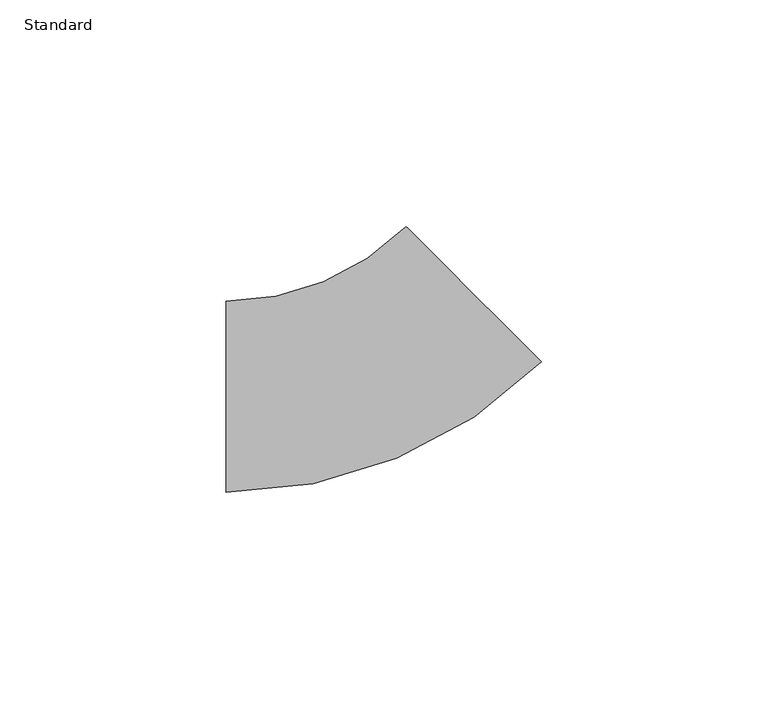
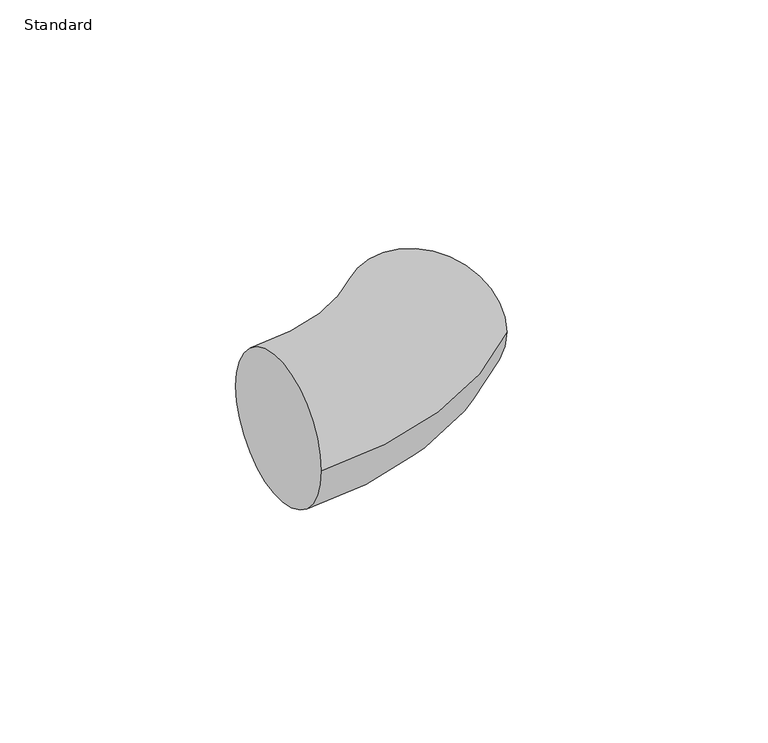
"""IFC4 building model written with IfcOpenShell, lengths in millimetres: pipe fitting geometry, Coude - Générique1 : Standard."""

from ifc_helpers import new_model, si_unit, point, frame, origin, place, context, project, spatial, circle_curve, ellipse_curve, trimmed, source, transform, mapped, element, save
from ifc_brep_helpers import plane_surface, revolved_surface, advanced_brep


def standard_fb91f736(model_context):
    return source(origin(), model_context, "Body", "AdvancedBrep", [
        advanced_brep(
        [(-32.0, -21.1, 0.0), (-32.0, 21.1, 0.0), (37.5470801, 7.7088766, 0.0), (7.7060513, 37.54766, 0.0)],
        [
            (0, 1, circle_curve(frame((-32.0, 0.0, 0.0), z_axis=(-1.0, 0.0, 0.0), x_axis=(0.0, 1.0, 0.0)), 21.1)),
            (1, 0, circle_curve(frame((-32.0, 0.0, 0.0), z_axis=(-1.0, 0.0, 0.0), x_axis=(0.0, 1.0, 0.0)), 21.1)),
            (2, 3, circle_curve(frame((22.6265657, 22.6282683, 0.0), z_axis=(0.7070801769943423, 0.7071333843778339, 0.0), x_axis=(-0.7071333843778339, 0.7070801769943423, 0.0)), 21.1)),
            (3, 2, circle_curve(frame((22.6265657, 22.6282683, 0.0), z_axis=(0.7070801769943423, 0.7071333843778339, 0.0), x_axis=(-0.7071333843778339, 0.7070801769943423, 0.0)), 21.1)),
            (3, 1, circle_curve(frame((-32.0, 77.2507237, 0.0), z_axis=(0.0, 0.0, -1.0), x_axis=(0.0, -1.0, 0.0)), 56.1507237)),
            (0, 2, circle_curve(frame((-32.0, 77.2507237, 0.0), z_axis=(0.0, 0.0, 1.0), x_axis=(0.0, -1.0, 0.0)), 98.3507237)),
        ],
        [
            plane_surface(frame((-32.0, 0.0, 0.0), z_axis=(-1.0, 0.0, 0.0), x_axis=(0.0, 0.0, 1.0))),
            plane_surface(frame((22.6265657, 22.6282683, 0.0), z_axis=(0.7070801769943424, 0.7071333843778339, 0.0), x_axis=(0.0, 0.0, 1.0))),
            revolved_surface(trimmed(ellipse_curve(frame((-32.0, 0.0, 0.0), z_axis=(-1.0, 0.0, 0.0), x_axis=(0.0, 1.0, 0.0)), 21.1, 21.1), [point((-32.0, -21.1, 0.0))], [point((-32.0, 21.1, 0.0))], True, "CARTESIAN"), (-32.0, 77.2507237, 0.0), (0.0, 0.0, 1.0)),
            revolved_surface(trimmed(ellipse_curve(frame((-32.0, 0.0, 0.0), z_axis=(-1.0, 0.0, 0.0), x_axis=(0.0, 1.0, 0.0)), 21.1, 21.1), [point((-32.0, 21.1, 0.0))], [point((-32.0, -21.1, 0.0))], True, "CARTESIAN"), (-32.0, 77.2507237, 0.0), (0.0, 0.0, 1.0)),
        ],
        [
            (0, [[1, 2]]),
            (1, [[3, 4]]),
            (2, [[5, -1, 6, -4]]),
            (3, [[-6, -2, -5, -3]]),
        ],
    ),
    ])


if __name__ == "__main__":
    model = new_model("IFC4")
    model_context = context("Model", 3, world=origin())
    ifc_project = project(units=[si_unit("LENGTHUNIT", "METRE", prefix="MILLI")], contexts=[model_context])
    site = spatial("IfcSite", under=ifc_project)
    building = spatial("IfcBuilding", under=site)
    placement = place(None, origin())
    standard_shape = standard_fb91f736(model_context)
    element("IfcPipeFitting", 1, ObjectType="Coude - Générique1 : Standard", at=placement, inside=building, context=model_context, shape_type="MappedRepresentation", body=[
        mapped(standard_shape, transform((0.0, 0.0, 0.0), x_axis=(1.0, 0.0, 0.0), y_axis=(0.0, 1.0, 0.0), z_axis=(0.0, 0.0, 1.0))),
    ])
    save(model, "model.ifc")
